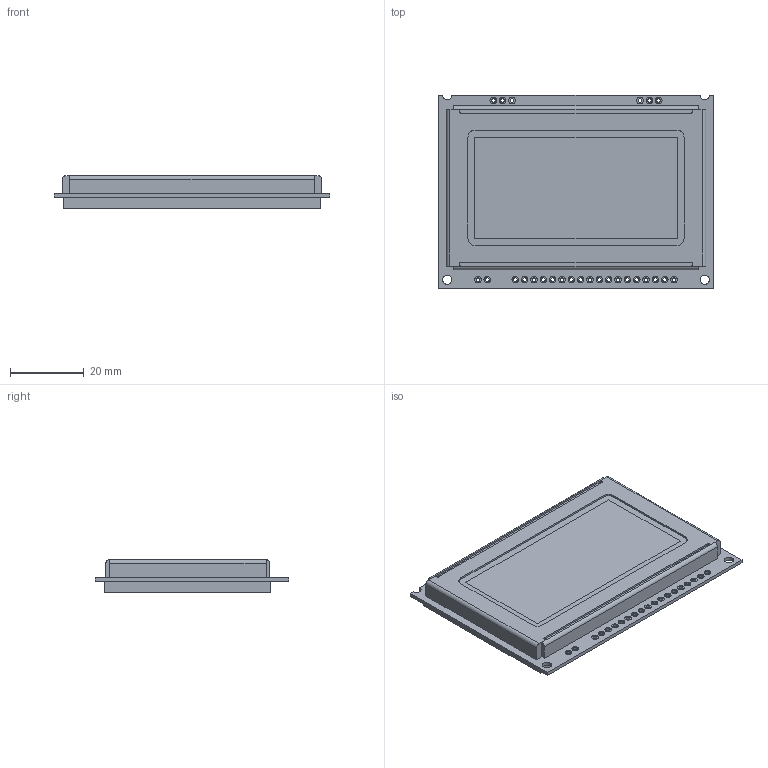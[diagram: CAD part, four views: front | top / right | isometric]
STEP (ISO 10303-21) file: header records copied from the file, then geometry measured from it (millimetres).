
FILE_DESCRIPTION (( 'STEP AP214' ), '1' );
FILE_NAME ('CFAG12864S.STEP', '2021-03-01T17:54:24', ( '' ), ( '' ), 'SwSTEP 2.0', 'SolidWorks 2020', '' );
FILE_SCHEMA (( 'AUTOMOTIVE_DESIGN' ));
Length unit declared in the file: millimetre
Products named in the file (1): CFAG12864S
Bounding box: 75 x 52.7 x 8.9 mm (x, y, z)
Volume: 27709.6 mm3; surface area: 16807.2 mm2
Topology: 28 solids, 28 shells, 485 faces, 1202 edges, 800 vertices
Faces by surface type: plane 201, cylinder 176, bspline 108
Entity records: 23460 total; most frequent: CARTESIAN_POINT 8836, ORIENTED_EDGE 2404, DIRECTION 2094, EDGE_CURVE 1202, VERTEX_POINT 800, AXIS2_PLACEMENT_3D 730, LINE 634, VECTOR 634
